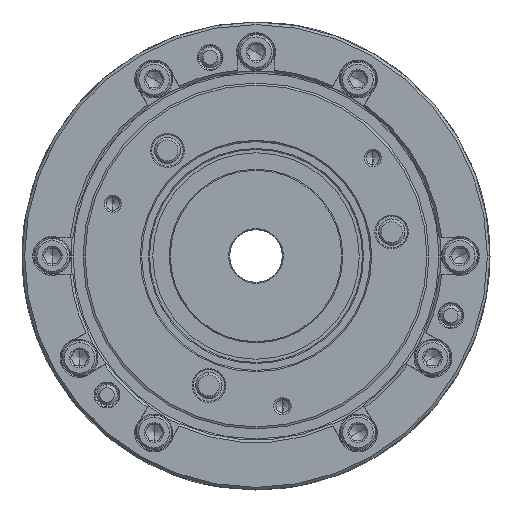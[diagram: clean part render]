
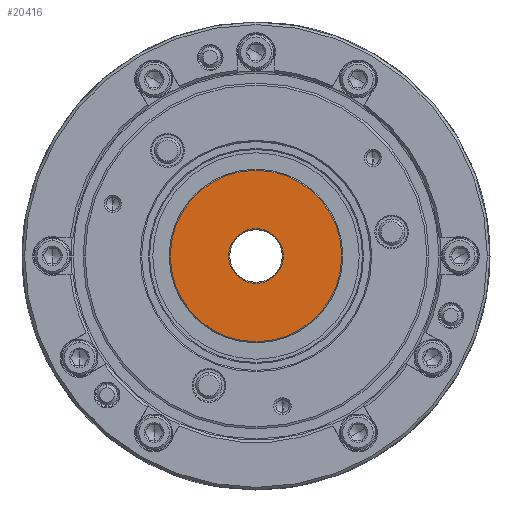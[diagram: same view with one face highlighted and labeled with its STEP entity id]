
A CAD part, left-side view. The second image highlights one B-rep face of the part: STEP entity #20416.
In plain terms, the highlighted planar face has unit normal (-1, 0, 0).
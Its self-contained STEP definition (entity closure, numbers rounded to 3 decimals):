
#306 = EDGE_CURVE ( 'NONE', #8587, #18845, #32223, .T. ) ;
#1325 = DIRECTION ( 'NONE',  ( 0., 0., 1. ) ) ;
#2361 = DIRECTION ( 'NONE',  ( -1., 0., 0. ) ) ;
#3116 = CARTESIAN_POINT ( 'NONE',  ( -28.5, 0., -32.6 ) ) ;
#3830 = DIRECTION ( 'NONE',  ( 0., 0., 1. ) ) ;
#3884 = DIRECTION ( 'NONE',  ( 0., 0., 1. ) ) ;
#4423 = VERTEX_POINT ( 'NONE', #3116 ) ;
#8587 = VERTEX_POINT ( 'NONE', #29489 ) ;
#8596 = DIRECTION ( 'NONE',  ( -1., 0., 0. ) ) ;
#8787 = DIRECTION ( 'NONE',  ( 0., 0., 1. ) ) ;
#10219 = CARTESIAN_POINT ( 'NONE',  ( -28.5, 0., 32.6 ) ) ;
#10688 = CIRCLE ( 'NONE', #22452, 10.4 ) ;
#11133 = CARTESIAN_POINT ( 'NONE',  ( -28.5, 0., 0. ) ) ;
#13387 = CARTESIAN_POINT ( 'NONE',  ( -28.5, 0., 0. ) ) ;
#14176 = EDGE_CURVE ( 'NONE', #26033, #4423, #21433, .T. ) ;
#15237 = AXIS2_PLACEMENT_3D ( 'NONE', #11133, #8596, #8787 ) ;
#16002 = CARTESIAN_POINT ( 'NONE',  ( -28.5, 0., 0. ) ) ;
#16998 = ORIENTED_EDGE ( 'NONE', *, *, #14176, .T. ) ;
#18845 = VERTEX_POINT ( 'NONE', #35517 ) ;
#19335 = DIRECTION ( 'NONE',  ( -1., 0., 0. ) ) ;
#19548 = EDGE_CURVE ( 'NONE', #4423, #26033, #27656, .T. ) ;
#20416 = ADVANCED_FACE ( 'NONE', ( #21460, #25921 ), #24603, .T. ) ;
#21433 = CIRCLE ( 'NONE', #23354, 32.6 ) ;
#21460 = FACE_OUTER_BOUND ( 'NONE', #28189, .T. ) ;
#22452 = AXIS2_PLACEMENT_3D ( 'NONE', #16002, #24956, #33945 ) ;
#23354 = AXIS2_PLACEMENT_3D ( 'NONE', #28964, #2361, #1325 ) ;
#23764 = AXIS2_PLACEMENT_3D ( 'NONE', #36740, #19335, #3830 ) ;
#24603 = PLANE ( 'NONE',  #23764 ) ;
#24956 = DIRECTION ( 'NONE',  ( -1., 0., 0. ) ) ;
#25921 = FACE_BOUND ( 'NONE', #30506, .T. ) ;
#26033 = VERTEX_POINT ( 'NONE', #10219 ) ;
#26579 = AXIS2_PLACEMENT_3D ( 'NONE', #13387, #36598, #3884 ) ;
#27656 = CIRCLE ( 'NONE', #15237, 32.6 ) ;
#28189 = EDGE_LOOP ( 'NONE', ( #29033, #16998 ) ) ;
#28964 = CARTESIAN_POINT ( 'NONE',  ( -28.5, 0., 0. ) ) ;
#29033 = ORIENTED_EDGE ( 'NONE', *, *, #19548, .T. ) ;
#29489 = CARTESIAN_POINT ( 'NONE',  ( -28.5, 0., 10.4 ) ) ;
#30506 = EDGE_LOOP ( 'NONE', ( #35364, #32841 ) ) ;
#32223 = CIRCLE ( 'NONE', #26579, 10.4 ) ;
#32841 = ORIENTED_EDGE ( 'NONE', *, *, #36836, .F. ) ;
#33945 = DIRECTION ( 'NONE',  ( 0., 0., 1. ) ) ;
#35364 = ORIENTED_EDGE ( 'NONE', *, *, #306, .F. ) ;
#35517 = CARTESIAN_POINT ( 'NONE',  ( -28.5, 0., -10.4 ) ) ;
#36598 = DIRECTION ( 'NONE',  ( -1., 0., 0. ) ) ;
#36740 = CARTESIAN_POINT ( 'NONE',  ( -28.5, -32.6, 0. ) ) ;
#36836 = EDGE_CURVE ( 'NONE', #18845, #8587, #10688, .T. ) ;
